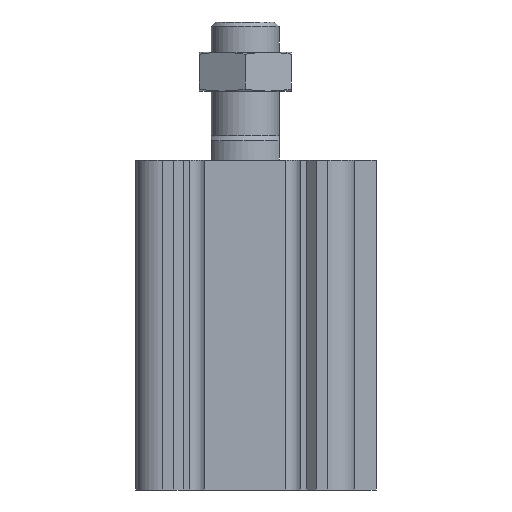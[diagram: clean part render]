
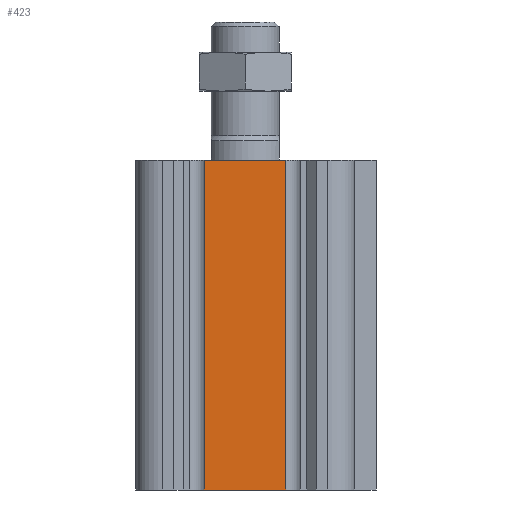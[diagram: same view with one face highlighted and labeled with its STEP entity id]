
A CAD part, front view. The second image highlights one B-rep face of the part: STEP entity #423.
In plain terms, the highlighted planar face has unit normal (0, -1, 0).
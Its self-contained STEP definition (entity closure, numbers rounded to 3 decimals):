
#423 = ADVANCED_FACE( '', ( #924 ), #925, .T. );
#924 = FACE_OUTER_BOUND( '', #1486, .T. );
#925 = PLANE( '', #1487 );
#1486 = EDGE_LOOP( '', ( #2527, #2528, #2529, #2530 ) );
#1487 = AXIS2_PLACEMENT_3D( '', #2531, #2532, #2533 );
#2527 = ORIENTED_EDGE( '', *, *, #3164, .F. );
#2528 = ORIENTED_EDGE( '', *, *, #3131, .F. );
#2529 = ORIENTED_EDGE( '', *, *, #3280, .T. );
#2530 = ORIENTED_EDGE( '', *, *, #2953, .T. );
#2531 = CARTESIAN_POINT( '', ( -8.4, -20.5, -68. ) );
#2532 = DIRECTION( '', ( 0., -1., 0. ) );
#2533 = DIRECTION( '', ( 0., 0., -1. ) );
#2953 = EDGE_CURVE( '', #3436, #3433, #3437, .T. );
#3131 = EDGE_CURVE( '', #3727, #3723, #3729, .T. );
#3164 = EDGE_CURVE( '', #3723, #3433, #3779, .T. );
#3280 = EDGE_CURVE( '', #3727, #3436, #3957, .T. );
#3433 = VERTEX_POINT( '', #4137 );
#3436 = VERTEX_POINT( '', #4141 );
#3437 = LINE( '', #4142, #4143 );
#3723 = VERTEX_POINT( '', #4581 );
#3727 = VERTEX_POINT( '', #4587 );
#3729 = LINE( '', #4590, #4591 );
#3779 = LINE( '', #4655, #4656 );
#3957 = LINE( '', #4904, #4905 );
#4137 = CARTESIAN_POINT( '', ( 8.4, -20.5, 0. ) );
#4141 = CARTESIAN_POINT( '', ( 8.4, -20.5, -68. ) );
#4142 = CARTESIAN_POINT( '', ( 8.4, -20.5, -68. ) );
#4143 = VECTOR( '', #5137, 1000. );
#4581 = CARTESIAN_POINT( '', ( -8.4, -20.5, 0. ) );
#4587 = CARTESIAN_POINT( '', ( -8.4, -20.5, -68. ) );
#4590 = CARTESIAN_POINT( '', ( -8.4, -20.5, -68. ) );
#4591 = VECTOR( '', #5341, 1000. );
#4655 = CARTESIAN_POINT( '', ( -8.4, -20.5, 0. ) );
#4656 = VECTOR( '', #5389, 1000. );
#4904 = CARTESIAN_POINT( '', ( -8.4, -20.5, -68. ) );
#4905 = VECTOR( '', #5541, 1000. );
#5137 = DIRECTION( '', ( 0., 0., 1. ) );
#5341 = DIRECTION( '', ( 0., 0., 1. ) );
#5389 = DIRECTION( '', ( 1., 0., 0. ) );
#5541 = DIRECTION( '', ( 1., 0., 0. ) );
